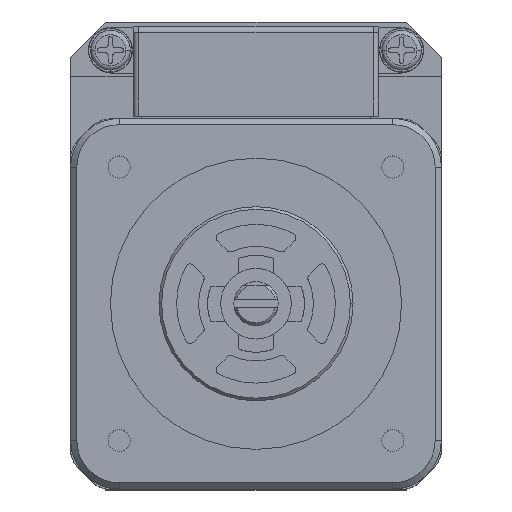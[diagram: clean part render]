
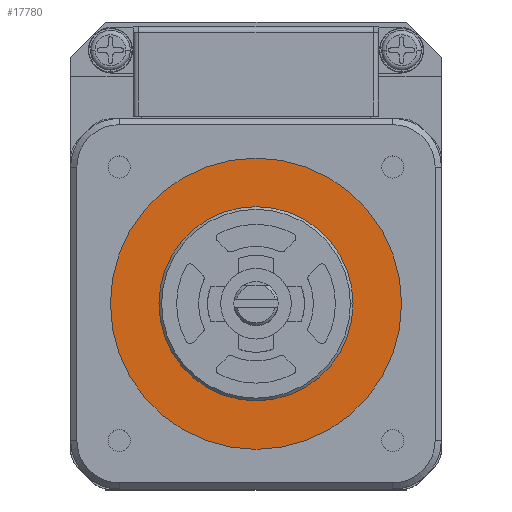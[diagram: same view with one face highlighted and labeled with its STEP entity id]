
A CAD part, top view. The second image highlights one B-rep face of the part: STEP entity #17780.
In plain terms, the highlighted planar face has unit normal (0, 0, 1).
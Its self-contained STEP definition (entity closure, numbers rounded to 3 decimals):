
#365 = CARTESIAN_POINT ( 'NONE',  ( -16.698, -16.698, -0.5 ) ) ;
#370 = FACE_OUTER_BOUND ( 'NONE', #8963, .T. ) ;
#374 = FACE_BOUND ( 'NONE', #8728, .T. ) ;
#375 = PLANE ( 'NONE',  #6299 ) ;
#377 = DIRECTION ( 'NONE',  ( 0., 0., 1. ) ) ;
#378 = DIRECTION ( 'NONE',  ( 1., 0., 0. ) ) ;
#1748 = CARTESIAN_POINT ( 'NONE',  ( 0., 0., -0.5 ) ) ;
#1749 = DIRECTION ( 'NONE',  ( 0., 0., -1. ) ) ;
#1750 = DIRECTION ( 'NONE',  ( -1., 0., 0. ) ) ;
#2894 = CARTESIAN_POINT ( 'NONE',  ( 0., 0., -0.5 ) ) ;
#2895 = DIRECTION ( 'NONE',  ( 0., 0., 1. ) ) ;
#2896 = DIRECTION ( 'NONE',  ( 1., 0., 0. ) ) ;
#3151 = CARTESIAN_POINT ( 'NONE',  ( 0., 0., -0.5 ) ) ;
#3152 = DIRECTION ( 'NONE',  ( 0., 0., -1. ) ) ;
#3153 = DIRECTION ( 'NONE',  ( -1., 0., 0. ) ) ;
#3482 = CIRCLE ( 'NONE', #3484, 16.5 ) ;
#3484 = AXIS2_PLACEMENT_3D ( 'NONE', #2894, #2895, #2896 ) ;
#3605 = CIRCLE ( 'NONE', #3607, 11. ) ;
#3607 = AXIS2_PLACEMENT_3D ( 'NONE', #3151, #3152, #3153 ) ;
#6299 = AXIS2_PLACEMENT_3D ( 'NONE', #365, #377, #378 ) ;
#6829 = AXIS2_PLACEMENT_3D ( 'NONE', #1748, #1749, #1750 ) ;
#6898 = CIRCLE ( 'NONE', #6829, 11. ) ;
#8728 = EDGE_LOOP ( 'NONE', ( #17529, #17530 ) ) ;
#8963 = EDGE_LOOP ( 'NONE', ( #17531, #17532 ) ) ;
#10554 = VERTEX_POINT ( 'NONE', #22705 ) ;
#10568 = VERTEX_POINT ( 'NONE', #22710 ) ;
#10611 = VERTEX_POINT ( 'NONE', #22741 ) ;
#10617 = VERTEX_POINT ( 'NONE', #22740 ) ;
#15419 = EDGE_CURVE ( 'NONE', #10568, #10554, #19886, .T. ) ;
#17529 = ORIENTED_EDGE ( 'NONE', *, *, #21371, .T. ) ;
#17530 = ORIENTED_EDGE ( 'NONE', *, *, #20942, .T. ) ;
#17531 = ORIENTED_EDGE ( 'NONE', *, *, #15419, .T. ) ;
#17532 = ORIENTED_EDGE ( 'NONE', *, *, #21288, .T. ) ;
#17780 = ADVANCED_FACE ( 'NONE', ( #374, #370 ), #375, .T. ) ;
#19855 = AXIS2_PLACEMENT_3D ( 'NONE', #26404, #26405, #26406 ) ;
#19886 = CIRCLE ( 'NONE', #19855, 16.5 ) ;
#20942 = EDGE_CURVE ( 'NONE', #10617, #10611, #6898, .T. ) ;
#21288 = EDGE_CURVE ( 'NONE', #10554, #10568, #3482, .T. ) ;
#21371 = EDGE_CURVE ( 'NONE', #10611, #10617, #3605, .T. ) ;
#22705 = CARTESIAN_POINT ( 'NONE',  ( -16.5, 0., -0.5 ) ) ;
#22710 = CARTESIAN_POINT ( 'NONE',  ( 16.5, 0., -0.5 ) ) ;
#22740 = CARTESIAN_POINT ( 'NONE',  ( 11., 0., -0.5 ) ) ;
#22741 = CARTESIAN_POINT ( 'NONE',  ( -11., 0., -0.5 ) ) ;
#26404 = CARTESIAN_POINT ( 'NONE',  ( 0., 0., -0.5 ) ) ;
#26405 = DIRECTION ( 'NONE',  ( 0., 0., 1. ) ) ;
#26406 = DIRECTION ( 'NONE',  ( 1., 0., 0. ) ) ;
